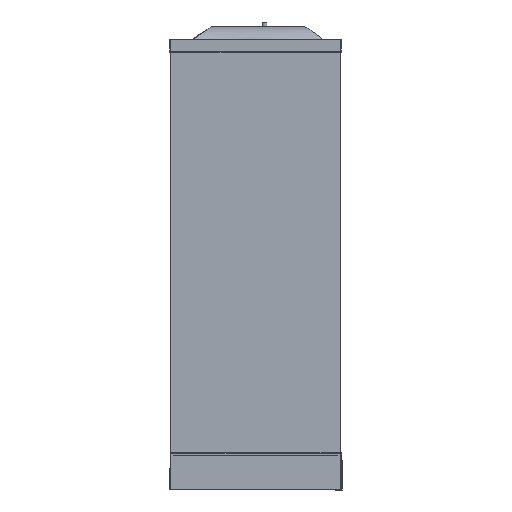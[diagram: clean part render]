
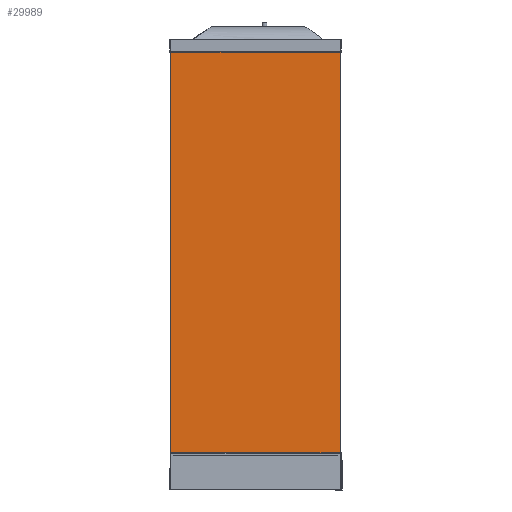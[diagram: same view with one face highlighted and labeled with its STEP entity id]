
A CAD part, left-side view. The second image highlights one B-rep face of the part: STEP entity #29989.
In plain terms, the highlighted planar face has unit normal (-1, 0, 0).
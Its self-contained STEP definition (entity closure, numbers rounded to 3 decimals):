
#29703=CARTESIAN_POINT('',(4.507,-787.007,176.06));
#29704=VERTEX_POINT('',#29703);
#29711=CARTESIAN_POINT('',(4.507,-787.007,163.06));
#29712=VERTEX_POINT('',#29711);
#29713=CARTESIAN_POINT('',(4.507,-787.007,163.06));
#29714=DIRECTION('',(0.0,0.0,1.0));
#29715=VECTOR('',#29714,13.);
#29716=LINE('',#29713,#29715);
#29717=EDGE_CURVE('',#29712,#29704,#29716,.T.);
#29733=CARTESIAN_POINT('',(4.507,-801.007,176.06));
#29734=VERTEX_POINT('',#29733);
#29751=CARTESIAN_POINT('',(4.507,-801.007,2050.06));
#29752=VERTEX_POINT('',#29751);
#29759=CARTESIAN_POINT('',(4.507,-801.007,2050.06));
#29760=DIRECTION('',(0.0,0.0,-1.0));
#29761=VECTOR('',#29760,1874.);
#29762=LINE('',#29759,#29761);
#29763=EDGE_CURVE('',#29752,#29734,#29762,.T.);
#29781=CARTESIAN_POINT('',(4.507,-801.007,176.06));
#29782=DIRECTION('',(0.0,1.0,0.0));
#29783=VECTOR('',#29782,14.0);
#29784=LINE('',#29781,#29783);
#29785=EDGE_CURVE('',#29734,#29704,#29784,.T.);
#29835=CARTESIAN_POINT('',(4.507,-17.007,163.06));
#29836=VERTEX_POINT('',#29835);
#29837=CARTESIAN_POINT('',(4.507,-17.007,176.06));
#29838=VERTEX_POINT('',#29837);
#29839=CARTESIAN_POINT('',(4.507,-17.007,163.06));
#29840=DIRECTION('',(0.0,0.0,1.0));
#29841=VECTOR('',#29840,13.);
#29842=LINE('',#29839,#29841);
#29843=EDGE_CURVE('',#29836,#29838,#29842,.T.);
#29875=CARTESIAN_POINT('',(4.507,-3.007,176.06));
#29876=VERTEX_POINT('',#29875);
#29877=CARTESIAN_POINT('',(4.507,-3.007,2050.06));
#29878=VERTEX_POINT('',#29877);
#29879=CARTESIAN_POINT('',(4.507,-3.007,176.06));
#29880=DIRECTION('',(0.0,0.0,1.0));
#29881=VECTOR('',#29880,1874.);
#29882=LINE('',#29879,#29881);
#29883=EDGE_CURVE('',#29876,#29878,#29882,.T.);
#29916=CARTESIAN_POINT('',(4.507,-3.007,176.06));
#29917=DIRECTION('',(0.0,-1.0,0.0));
#29918=VECTOR('',#29917,14.);
#29919=LINE('',#29916,#29918);
#29920=EDGE_CURVE('',#29876,#29838,#29919,.T.);
#29932=CARTESIAN_POINT('',(4.507,-1907.625,161.06));
#29933=DIRECTION('',(-1.0,0.0,0.0));
#29934=DIRECTION('',(0.0,-1.0,0.0));
#29935=AXIS2_PLACEMENT_3D('',#29932,#29933,#29934);
#29936=PLANE('',#29935);
#29937=CARTESIAN_POINT('',(4.507,-17.007,163.06));
#29938=DIRECTION('',(0.0,-1.0,0.0));
#29939=VECTOR('',#29938,770.);
#29940=LINE('',#29937,#29939);
#29941=EDGE_CURVE('',#29836,#29712,#29940,.T.);
#29942=ORIENTED_EDGE('',*,*,#29941,.T.);
#29943=ORIENTED_EDGE('',*,*,#29717,.T.);
#29944=ORIENTED_EDGE('',*,*,#29785,.F.);
#29945=ORIENTED_EDGE('',*,*,#29763,.F.);
#29946=CARTESIAN_POINT('',(4.507,-787.007,2050.06));
#29947=VERTEX_POINT('',#29946);
#29948=CARTESIAN_POINT('',(4.507,-801.007,2050.06));
#29949=DIRECTION('',(0.0,1.0,0.0));
#29950=VECTOR('',#29949,14.0);
#29951=LINE('',#29948,#29950);
#29952=EDGE_CURVE('',#29752,#29947,#29951,.T.);
#29953=ORIENTED_EDGE('',*,*,#29952,.T.);
#29954=CARTESIAN_POINT('',(4.507,-787.007,2063.06));
#29955=VERTEX_POINT('',#29954);
#29956=CARTESIAN_POINT('',(4.507,-787.007,2063.06));
#29957=DIRECTION('',(0.0,0.0,-1.0));
#29958=VECTOR('',#29957,13.0);
#29959=LINE('',#29956,#29958);
#29960=EDGE_CURVE('',#29955,#29947,#29959,.T.);
#29961=ORIENTED_EDGE('',*,*,#29960,.F.);
#29962=CARTESIAN_POINT('',(4.507,-17.007,2063.06));
#29963=VERTEX_POINT('',#29962);
#29964=CARTESIAN_POINT('',(4.507,-17.007,2063.06));
#29965=DIRECTION('',(0.0,-1.0,0.0));
#29966=VECTOR('',#29965,770.);
#29967=LINE('',#29964,#29966);
#29968=EDGE_CURVE('',#29963,#29955,#29967,.T.);
#29969=ORIENTED_EDGE('',*,*,#29968,.F.);
#29970=CARTESIAN_POINT('',(4.507,-17.007,2050.06));
#29971=VERTEX_POINT('',#29970);
#29972=CARTESIAN_POINT('',(4.507,-17.007,2063.06));
#29973=DIRECTION('',(0.0,0.0,-1.0));
#29974=VECTOR('',#29973,13.0);
#29975=LINE('',#29972,#29974);
#29976=EDGE_CURVE('',#29963,#29971,#29975,.T.);
#29977=ORIENTED_EDGE('',*,*,#29976,.T.);
#29978=CARTESIAN_POINT('',(4.507,-3.007,2050.06));
#29979=DIRECTION('',(0.0,-1.0,0.0));
#29980=VECTOR('',#29979,14.0);
#29981=LINE('',#29978,#29980);
#29982=EDGE_CURVE('',#29878,#29971,#29981,.T.);
#29983=ORIENTED_EDGE('',*,*,#29982,.F.);
#29984=ORIENTED_EDGE('',*,*,#29883,.F.);
#29985=ORIENTED_EDGE('',*,*,#29920,.T.);
#29986=ORIENTED_EDGE('',*,*,#29843,.F.);
#29987=EDGE_LOOP('',(#29942,#29943,#29944,#29945,#29953,#29961,#29969,#29977,#29983,#29984,#29985,#29986));
#29988=FACE_OUTER_BOUND('',#29987,.T.);
#29989=ADVANCED_FACE('',(#29988),#29936,.T.);
